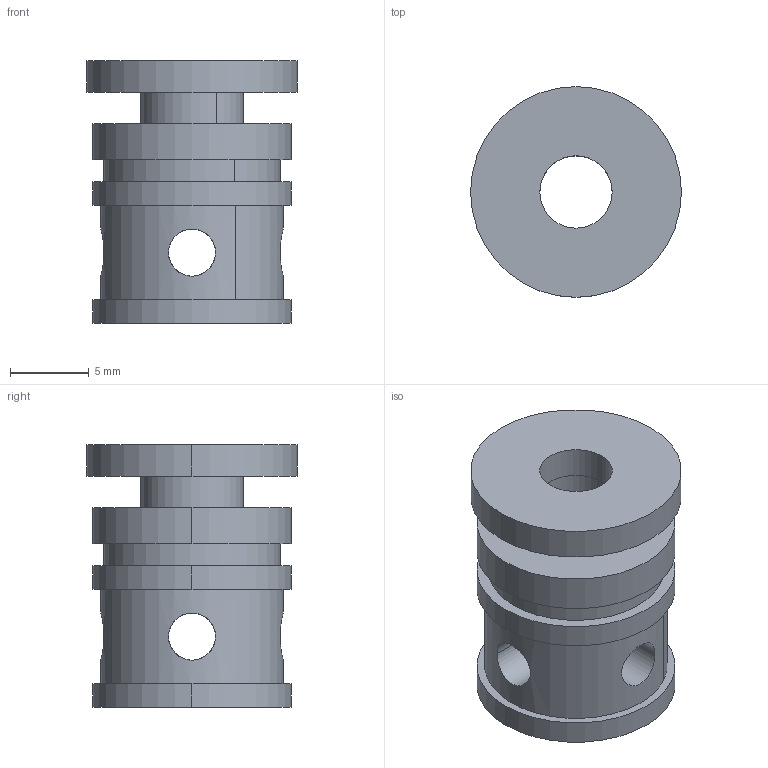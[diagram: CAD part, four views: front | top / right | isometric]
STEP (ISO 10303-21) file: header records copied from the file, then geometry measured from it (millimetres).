
FILE_DESCRIPTION(('CATIA V5 STEP Exchange'),'2;1');
FILE_NAME('C:\Users\Administrator\Desktop\LS42.09_V1 端盖A.stp','2020-04-01T10:22:17+00:00',('none'),('none'),'CATIA Version 5 Release 21 GA (IN-10)','CATIA V5 STEP AP214','none');
FILE_SCHEMA(('AUTOMOTIVE_DESIGN { 1 0 10303 214 1 1 1 1 }'));
Length unit declared in the file: millimetre
Products named in the file (1): Copy (1) of 端盖.1
Bounding box: 13.4 x 13.4 x 16.7 mm (x, y, z)
Volume: 1246 mm3; surface area: 1505.8 mm2
Topology: 1 solids, 1 shells, 45 faces, 104 edges, 68 vertices
Faces by surface type: cylinder 32, plane 11, cone 2
Entity records: 1342 total; most frequent: CARTESIAN_POINT 384, ORIENTED_EDGE 208, DIRECTION 138, EDGE_CURVE 104, AXIS2_PLACEMENT_3D 76, VERTEX_POINT 68, EDGE_LOOP 62, CIRCLE 48
